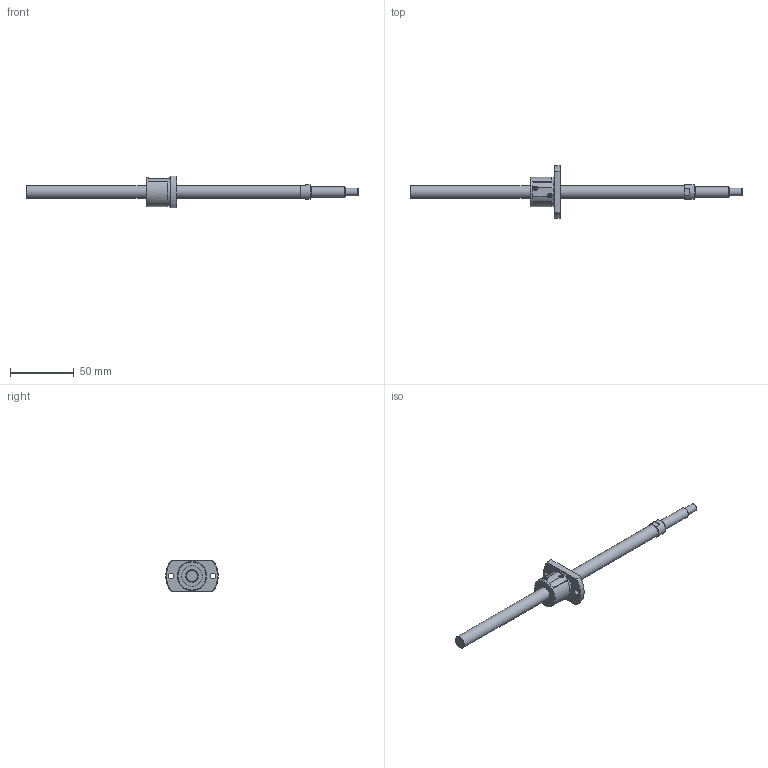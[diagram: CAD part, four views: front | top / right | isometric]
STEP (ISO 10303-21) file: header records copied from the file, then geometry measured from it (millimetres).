
FILE_DESCRIPTION( ( 'STEP AP214' ), '1' );
FILE_NAME( 'p:/temp/worker_8/1096_1344/app_83_12015063014125552119045260eae72_00_00_00_000/STEP/SG1002-211R260C3A1X_94__2_14.stp', ' ', ( ' ' ), ( ' ' ), 'PSStep 15.0.47', 'PARTsolutions', ' ' );
FILE_SCHEMA( ( 'AUTOMOTIVE_DESIGN { 1 0 10303 214 1 1 1 1 }' ) );
Length unit declared in the file: millimetre
Products named in the file (3): SG1002-211R260C3A1X(94); _SG1002-211R260C3A_shaft; _SG1002_nut
Assembly tree (2 placements, depth 2):
  SG1002-211R260C3A1X(94)
    _SG1002-211R260C3A_shaft
    _SG1002_nut
Bounding box: 260 x 41 x 25 mm (x, y, z)
Volume: 29457 mm3; surface area: 12683.5 mm2
Topology: 2 solids, 2 shells, 72 faces, 177 edges, 116 vertices
Faces by surface type: plane 35, cylinder 23, cone 13, torus 1
Full cylindrical faces by diameter (mm): 4.5 x2, 6 x1, 8 x1, 10 x2, 11.5 x1, 16 x2, 22.6 x1, 23 x1
Entity records: 2634 total; most frequent: CARTESIAN_POINT 409, DIRECTION 346, ORIENTED_EDGE 292, EDGE_CURVE 146, AXIS2_PLACEMENT_3D 143, EDGE_LOOP 106, VERTEX_POINT 106, FACE_OUTER_BOUND 84
